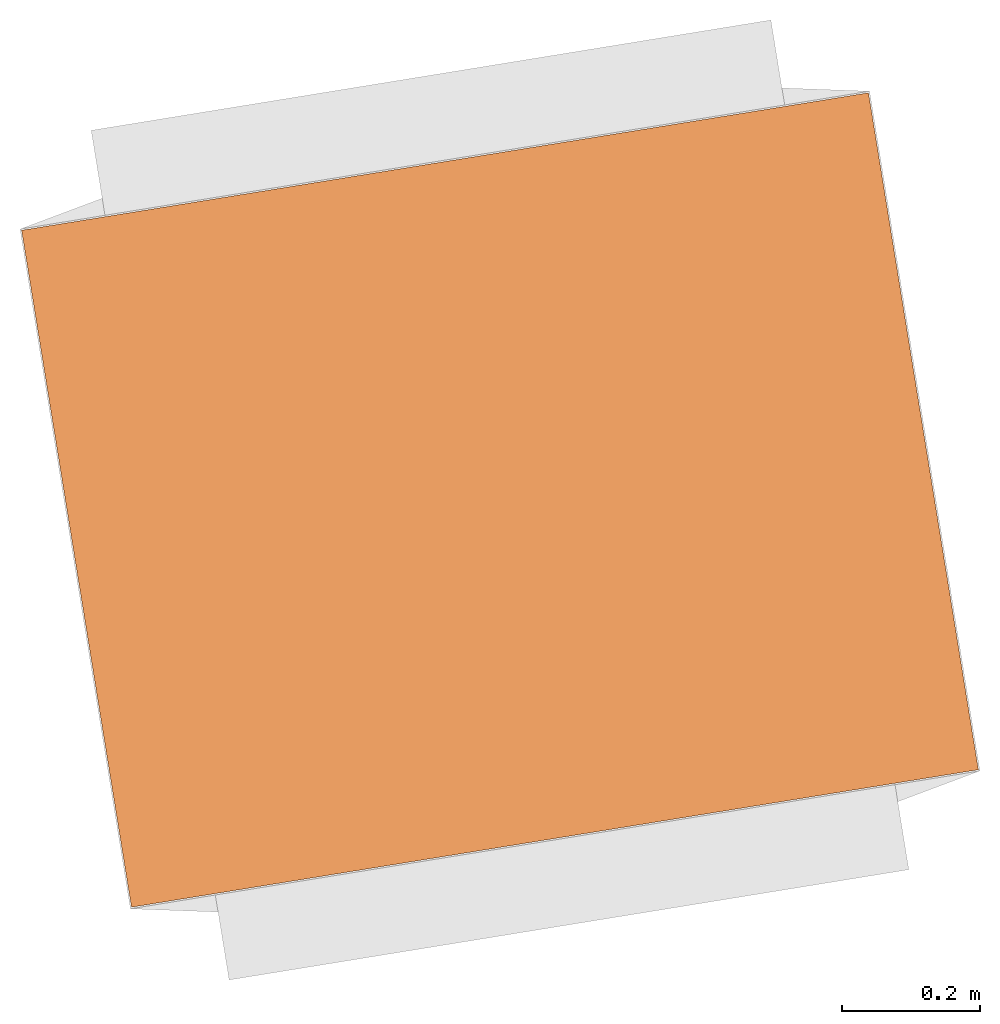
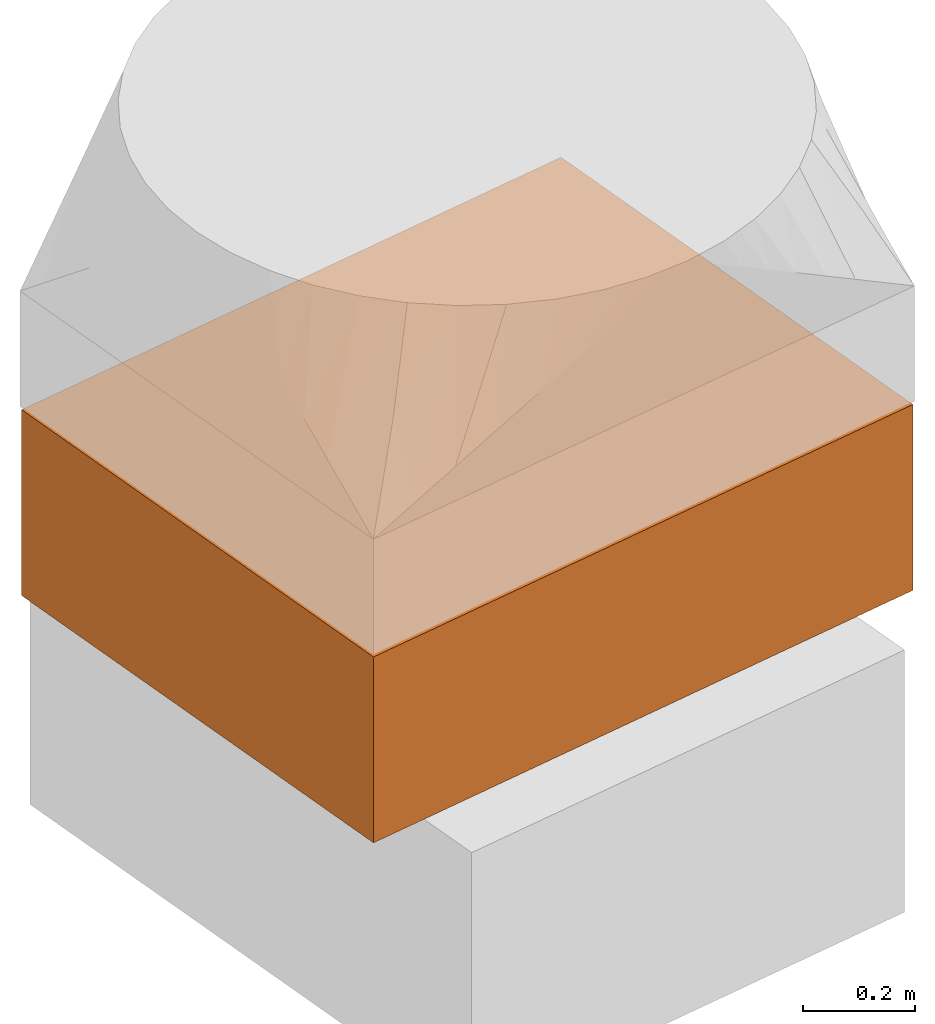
# One storey, part 3 of 3: 1 proxy.
"""IFC2X3 building model written with IfcOpenShell, lengths in millimetres."""

from ifc_helpers import new_model, entity, si_unit, converted_unit, derived_unit, direction, frame, origin, origin_with_axes, origin_2d_with_axis, place, context, subcontext, project, spatial, rectangle, extrude, source, transform, mapped, material, type_object, element, save


model = new_model("IFC2X3")

# Units and contexts
model_context = context("Model", 3, precision=0.01, world=origin(), true_north=direction((6.12323399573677e-17, 1.0)))
plan_context = context("Plan", 3, precision=1e-05, world=origin_with_axes())
body_context = subcontext(model_context, "Body", "Model", "MODEL_VIEW")
ifc_project = project(units=[converted_unit("PLANEANGLEUNIT", "DEGREE", entity("IfcPositiveLengthMeasure", 0.0174532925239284), si_unit("PLANEANGLEUNIT", "RADIAN"), dimensions=[0, 0, 0, 0, 0, 0, 0]), si_unit("AREAUNIT", "SQUARE_METRE"), si_unit("LENGTHUNIT", "METRE", prefix="MILLI"), si_unit("MASSUNIT", "GRAM", prefix="KILO"), si_unit("POWERUNIT", "WATT"), si_unit("PRESSUREUNIT", "PASCAL", prefix="KILO"), si_unit("FORCEUNIT", "NEWTON", prefix="KILO"), si_unit("ELECTRICVOLTAGEUNIT", "VOLT"), si_unit("ELECTRICCURRENTUNIT", "AMPERE"), si_unit("THERMODYNAMICTEMPERATUREUNIT", "DEGREE_CELSIUS"), si_unit("TIMEUNIT", "SECOND"), si_unit("VOLUMEUNIT", "CUBIC_METRE"), derived_unit("LINEARVELOCITYUNIT", [(si_unit("LENGTHUNIT", "METRE"), 1), (si_unit("TIMEUNIT", "SECOND"), -1)]), derived_unit("VOLUMETRICFLOWRATEUNIT", [(si_unit("VOLUMEUNIT", "CUBIC_METRE"), 1), (si_unit("TIMEUNIT", "SECOND"), -1)]), derived_unit("THERMALTRANSMITTANCEUNIT", [(si_unit("POWERUNIT", "WATT"), 1), (si_unit("THERMODYNAMICTEMPERATUREUNIT", "KELVIN"), -1), (si_unit("AREAUNIT", "SQUARE_METRE"), -1)]), derived_unit("SOUNDPRESSUREUNIT", [(si_unit("PRESSUREUNIT", "PASCAL"), 1)])], contexts=[model_context, plan_context])

# Site, building, storey
site_placement = place(None, frame((-0.00071070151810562, 0.00438415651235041, 0.0), z_axis=(0.0, 0.0, 1.0), x_axis=(-0.160236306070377, 0.987078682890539, 0.0)))
site = spatial("IfcSite", under=ifc_project, at=site_placement, Name="Default", CompositionType="ELEMENT")
building_placement = place(site_placement, origin_with_axes())
building = spatial("IfcBuilding", under=site, at=building_placement, CompositionType="ELEMENT")
storey_placement = place(building_placement, frame((0.0, 0.0, 55630.0), z_axis=(0.0, 0.0, 1.0), x_axis=(1.0, 0.0, 0.0)))
storey = spatial("IfcBuildingStorey", under=building, at=storey_placement, Name="Nivå E", CompositionType="ELEMENT", Elevation=55630.0)

# Proxy
ifc_material = material(Name="<Unnamed>")
building_element_proxy_type = type_object("IfcBuildingElementProxyType", Name="BRANNSPJELD -  - SZ010T:BRANNSPJELD - FDT/R-1250-1000 - SZ010T", PredefinedType="NOTDEFINED", material=ifc_material)
shared_shape = source(origin(), body_context, "Body", "SweptSolid", [
    extrude(rectangle(XDim=1246.0, YDim=406.0, at=origin_2d_with_axis()), frame((0.0, 0.0, -498.0), z_axis=(0.0, 0.0, 1.0), x_axis=(0.0, 1.0, 0.0)), (0.0, 0.0, 1.0), 995.999999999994),
])
proxy_placement = place(storey_placement, frame((776626.452700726, -596135.086612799, -4640.00187988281), z_axis=(1.0, 0.0, 0.0), x_axis=(0.0, 0.0, 1.0)))
element("IfcBuildingElementProxy", 1, at=proxy_placement, inside=storey, type_object=building_element_proxy_type, material=ifc_material, Name="BRANNSPJELD -  - SZ010T:BRANNSPJELD - FDT/R-1250-1000 - SZ010T", ObjectType="BRANNSPJELD -  - SZ010T:BRANNSPJELD - FDT/R-1250-1000 - SZ010T", context=body_context, shape_type="MappedRepresentation", body=[
    mapped(shared_shape, transform((0.0, 0.0, 0.0), scale=1.0)),
])

save(model, "model.ifc")
